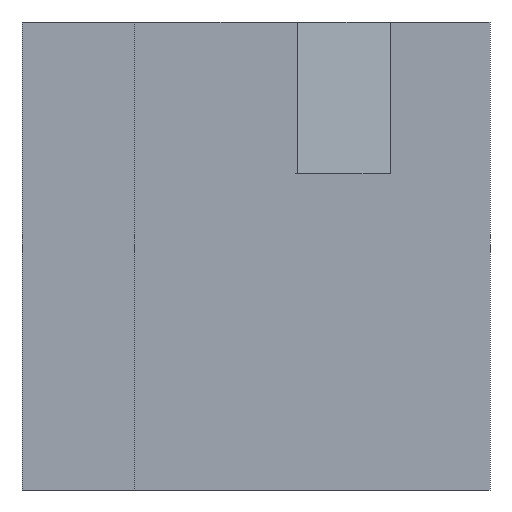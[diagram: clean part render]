
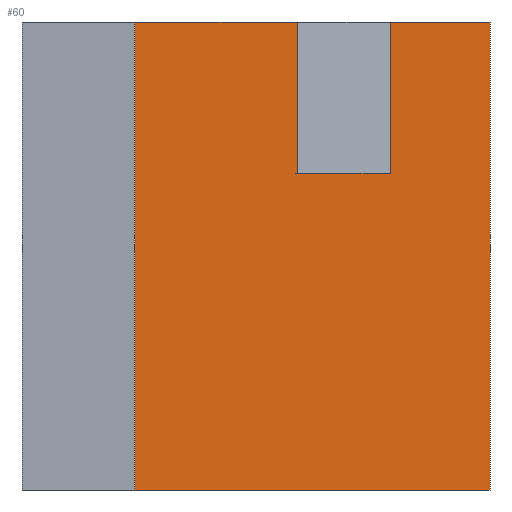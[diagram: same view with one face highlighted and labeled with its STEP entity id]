
A CAD part, left-side view. The second image highlights one B-rep face of the part: STEP entity #60.
In plain terms, the highlighted planar face has unit normal (-1, 0, 0).
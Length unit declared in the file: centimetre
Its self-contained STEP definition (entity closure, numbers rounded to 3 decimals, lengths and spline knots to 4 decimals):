
#8 = VERTEX_POINT ( 'NONE', #381 ) ;
#11 = LINE ( 'NONE', #145, #422 ) ;
#13 = DIRECTION ( 'NONE',  ( 0., 0., 1. ) ) ;
#16 = CARTESIAN_POINT ( 'NONE',  ( 585.1836, 411.5123, 1000. ) ) ;
#29 = VERTEX_POINT ( 'NONE', #81 ) ;
#33 = EDGE_CURVE ( 'NONE', #8, #323, #47, .T. ) ;
#47 = LINE ( 'NONE', #78, #434 ) ;
#54 = CARTESIAN_POINT ( 'NONE',  ( 585.1836, 0., 1000. ) ) ;
#60 = ADVANCED_FACE ( 'NONE', ( #115 ), #353, .F. ) ;
#62 = VERTEX_POINT ( 'NONE', #411 ) ;
#72 = LINE ( 'NONE', #176, #220 ) ;
#78 = CARTESIAN_POINT ( 'NONE',  ( 585.1836, 0., 1000. ) ) ;
#79 = EDGE_CURVE ( 'NONE', #159, #165, #72, .T. ) ;
#81 = CARTESIAN_POINT ( 'NONE',  ( 585.1836, 0., 0. ) ) ;
#87 = ORIENTED_EDGE ( 'NONE', *, *, #312, .T. ) ;
#96 = EDGE_CURVE ( 'NONE', #413, #29, #11, .T. ) ;
#97 = VECTOR ( 'NONE', #270, 100. ) ;
#100 = CARTESIAN_POINT ( 'NONE',  ( 585.1836, 0., 1000. ) ) ;
#104 = DIRECTION ( 'NONE',  ( 0., 0., -1. ) ) ;
#115 = FACE_OUTER_BOUND ( 'NONE', #185, .T. ) ;
#117 = DIRECTION ( 'NONE',  ( 0., 0., -1. ) ) ;
#133 = EDGE_CURVE ( 'NONE', #8, #165, #370, .T. ) ;
#136 = CARTESIAN_POINT ( 'NONE',  ( 585.1836, 213.1453, 677.3005 ) ) ;
#145 = CARTESIAN_POINT ( 'NONE',  ( 585.1836, 0., 0. ) ) ;
#148 = DIRECTION ( 'NONE',  ( 0., -1., 0. ) ) ;
#157 = ORIENTED_EDGE ( 'NONE', *, *, #133, .T. ) ;
#159 = VERTEX_POINT ( 'NONE', #169 ) ;
#165 = VERTEX_POINT ( 'NONE', #136 ) ;
#169 = CARTESIAN_POINT ( 'NONE',  ( 585.1836, 411.5123, 677.3005 ) ) ;
#176 = CARTESIAN_POINT ( 'NONE',  ( 585.1836, 0., 677.3005 ) ) ;
#182 = CARTESIAN_POINT ( 'NONE',  ( 585.1836, 759.5221, 1000. ) ) ;
#185 = EDGE_LOOP ( 'NONE', ( #321, #199, #399, #87, #286, #250, #200, #157 ) ) ;
#189 = CARTESIAN_POINT ( 'NONE',  ( 585.1836, 759.5221, 1000. ) ) ;
#199 = ORIENTED_EDGE ( 'NONE', *, *, #268, .T. ) ;
#200 = ORIENTED_EDGE ( 'NONE', *, *, #33, .F. ) ;
#202 = AXIS2_PLACEMENT_3D ( 'NONE', #280, #272, #418 ) ;
#206 = VECTOR ( 'NONE', #249, 100. ) ;
#211 = CARTESIAN_POINT ( 'NONE',  ( 585.1836, 213.1453, 1000. ) ) ;
#216 = LINE ( 'NONE', #54, #385 ) ;
#220 = VECTOR ( 'NONE', #342, 100. ) ;
#234 = VECTOR ( 'NONE', #104, 100. ) ;
#249 = DIRECTION ( 'NONE',  ( 0., 0., -1. ) ) ;
#250 = ORIENTED_EDGE ( 'NONE', *, *, #367, .F. ) ;
#251 = EDGE_CURVE ( 'NONE', #392, #62, #406, .T. ) ;
#268 = EDGE_CURVE ( 'NONE', #159, #62, #414, .T. ) ;
#270 = DIRECTION ( 'NONE',  ( 0., -1., 0. ) ) ;
#272 = DIRECTION ( 'NONE',  ( 1., 0., 0. ) ) ;
#280 = CARTESIAN_POINT ( 'NONE',  ( 585.1836, 0., 1000. ) ) ;
#286 = ORIENTED_EDGE ( 'NONE', *, *, #96, .T. ) ;
#312 = EDGE_CURVE ( 'NONE', #392, #413, #343, .T. ) ;
#320 = CARTESIAN_POINT ( 'NONE',  ( 585.1836, 759.5221, 0. ) ) ;
#321 = ORIENTED_EDGE ( 'NONE', *, *, #79, .F. ) ;
#323 = VERTEX_POINT ( 'NONE', #417 ) ;
#328 = VECTOR ( 'NONE', #13, 100. ) ;
#342 = DIRECTION ( 'NONE',  ( 0., -1., 0. ) ) ;
#343 = LINE ( 'NONE', #182, #206 ) ;
#348 = DIRECTION ( 'NONE',  ( 0., -1., 0. ) ) ;
#353 = PLANE ( 'NONE',  #202 ) ;
#367 = EDGE_CURVE ( 'NONE', #323, #29, #216, .T. ) ;
#370 = LINE ( 'NONE', #211, #234 ) ;
#381 = CARTESIAN_POINT ( 'NONE',  ( 585.1836, 213.1453, 1000. ) ) ;
#385 = VECTOR ( 'NONE', #117, 100. ) ;
#392 = VERTEX_POINT ( 'NONE', #189 ) ;
#399 = ORIENTED_EDGE ( 'NONE', *, *, #251, .F. ) ;
#406 = LINE ( 'NONE', #100, #97 ) ;
#411 = CARTESIAN_POINT ( 'NONE',  ( 585.1836, 411.5123, 1000. ) ) ;
#413 = VERTEX_POINT ( 'NONE', #320 ) ;
#414 = LINE ( 'NONE', #16, #328 ) ;
#417 = CARTESIAN_POINT ( 'NONE',  ( 585.1836, 0., 1000. ) ) ;
#418 = DIRECTION ( 'NONE',  ( 0., 0., -1. ) ) ;
#422 = VECTOR ( 'NONE', #348, 100. ) ;
#434 = VECTOR ( 'NONE', #148, 100. ) ;
